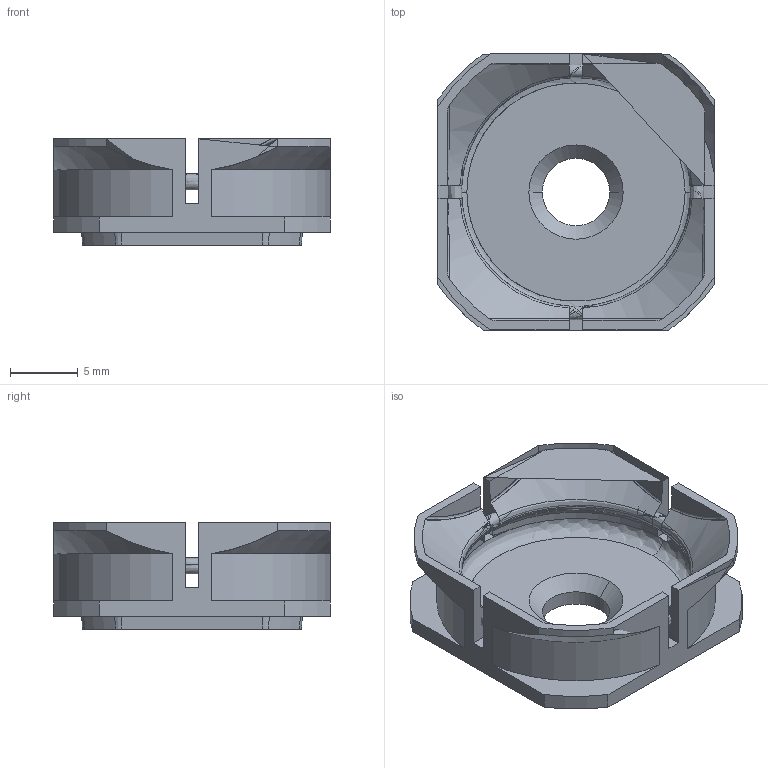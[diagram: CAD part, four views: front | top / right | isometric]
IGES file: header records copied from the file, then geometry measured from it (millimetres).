
Start section: 3D InterOp IGES (v. 2022 1.0.1), Spatial Corp. Copyright (c) 1999-2020.
Global section: file name: E545_W_11.05.819 Click Button Panel Connector Black PA Female _25mm.igs; native system: Spatial Corp.; preprocessor: 3D InterOp GENERIC/IGES 3.0; author: Noname; organization: Noname; date: 20251208.165725; units: millimetre
Bounding box: 20.4 x 20.4 x 7.86 mm (x, y, z)
Surface area: 3074.7 mm2 (no closed solid volume)
Topology: 0 solids, 0 shells, 139 faces, 889 edges, 877 vertices
Faces by surface type: revolution 64, extrusion 51, bspline 24
